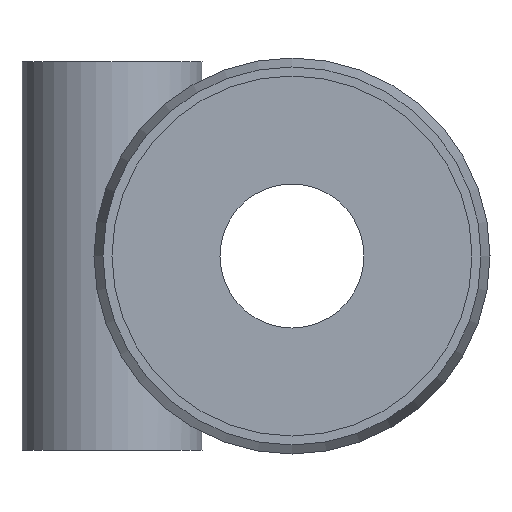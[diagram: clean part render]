
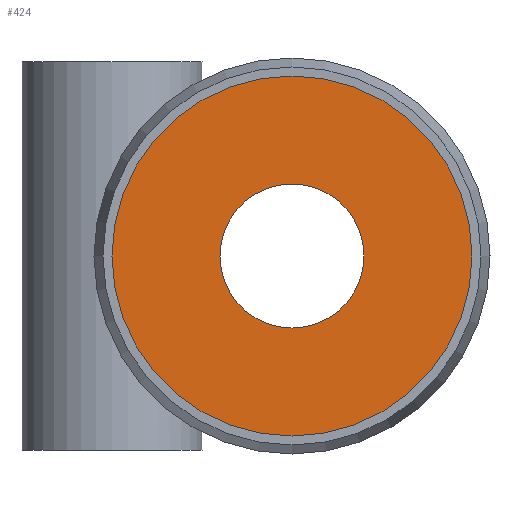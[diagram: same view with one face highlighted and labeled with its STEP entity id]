
A CAD part, left-side view. The second image highlights one B-rep face of the part: STEP entity #424.
In plain terms, the highlighted planar face has unit normal (-1, 0, 0).
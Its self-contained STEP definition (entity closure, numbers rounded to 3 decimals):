
#213=CARTESIAN_POINT('',(-16.75,-2.0,0.));
#214=VERTEX_POINT('',#213);
#215=CARTESIAN_POINT('',(-16.75,0.0,0.0));
#216=DIRECTION('',(1.0,0.0,0.0));
#217=DIRECTION('',(0.0,1.0,0.0));
#218=AXIS2_PLACEMENT_3D('',#215,#216,#217);
#219=CIRCLE('',#218,2.0);
#220=EDGE_CURVE('',#214,#214,#219,.T.);
#405=CARTESIAN_POINT('',(-16.75,2.5,0.0));
#406=DIRECTION('',(-1.0,0.0,0.0));
#407=DIRECTION('',(0.0,0.0,1.0));
#408=AXIS2_PLACEMENT_3D('',#405,#406,#407);
#409=PLANE('',#408);
#410=CARTESIAN_POINT('',(-16.75,5.0,0.0));
#411=VERTEX_POINT('',#410);
#412=CARTESIAN_POINT('',(-16.75,0.0,0.0));
#413=DIRECTION('',(1.0,0.0,0.0));
#414=DIRECTION('',(0.0,1.0,0.0));
#415=AXIS2_PLACEMENT_3D('',#412,#413,#414);
#416=CIRCLE('',#415,5.0);
#417=EDGE_CURVE('',#411,#411,#416,.T.);
#418=ORIENTED_EDGE('',*,*,#417,.F.);
#419=EDGE_LOOP('',(#418));
#420=FACE_OUTER_BOUND('',#419,.T.);
#421=ORIENTED_EDGE('',*,*,#220,.T.);
#422=EDGE_LOOP('',(#421));
#423=FACE_BOUND('',#422,.T.);
#424=ADVANCED_FACE('',(#420,#423),#409,.T.);
